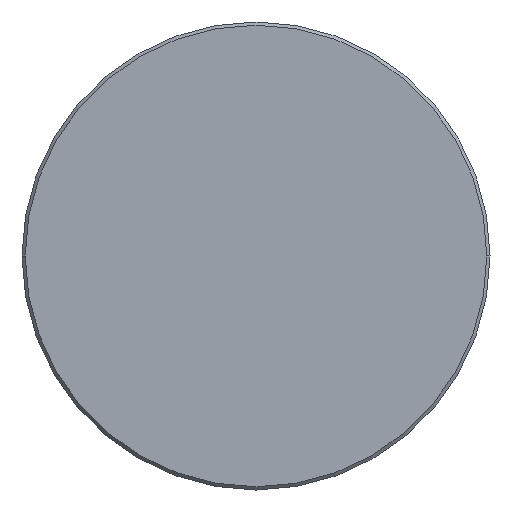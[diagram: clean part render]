
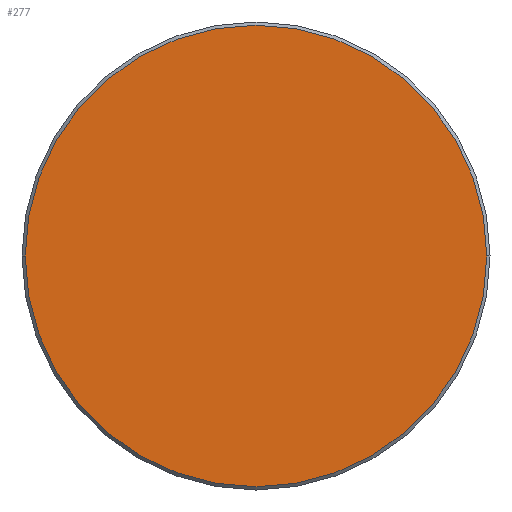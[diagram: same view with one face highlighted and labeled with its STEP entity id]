
A CAD part, left-side view. The second image highlights one B-rep face of the part: STEP entity #277.
In plain terms, the highlighted planar face has unit normal (-1, 0, 0).
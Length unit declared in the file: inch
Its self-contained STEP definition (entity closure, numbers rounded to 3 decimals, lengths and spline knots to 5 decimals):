
#3 = EDGE_LOOP ( 'NONE', ( #10, #75 ) ) ;
#10 = ORIENTED_EDGE ( 'NONE', *, *, #99, .T. ) ;
#53 = EDGE_CURVE ( 'NONE', #90, #296, #250, .T. ) ;
#75 = ORIENTED_EDGE ( 'NONE', *, *, #53, .T. ) ;
#90 = VERTEX_POINT ( 'NONE', #273 ) ;
#98 = PLANE ( 'NONE',  #207 ) ;
#99 = EDGE_CURVE ( 'NONE', #296, #90, #260, .T. ) ;
#123 = DIRECTION ( 'NONE',  ( 0., -1., 0. ) ) ;
#125 = DIRECTION ( 'NONE',  ( 0., -1., 0. ) ) ;
#150 = DIRECTION ( 'NONE',  ( -1., 0., 0. ) ) ;
#204 = DIRECTION ( 'NONE',  ( 0., -1., 0. ) ) ;
#207 = AXIS2_PLACEMENT_3D ( 'NONE', #301, #302, #125 ) ;
#239 = AXIS2_PLACEMENT_3D ( 'NONE', #327, #150, #123 ) ;
#250 = CIRCLE ( 'NONE', #347, 0.28506 ) ;
#260 = CIRCLE ( 'NONE', #239, 0.28506 ) ;
#261 = DIRECTION ( 'NONE',  ( -1., 0., 0. ) ) ;
#273 = CARTESIAN_POINT ( 'NONE',  ( 0., -0.28506, 0. ) ) ;
#274 = FACE_OUTER_BOUND ( 'NONE', #3, .T. ) ;
#275 = CARTESIAN_POINT ( 'NONE',  ( 0., 0.28506, 0. ) ) ;
#277 = ADVANCED_FACE ( 'NONE', ( #274 ), #98, .T. ) ;
#296 = VERTEX_POINT ( 'NONE', #275 ) ;
#301 = CARTESIAN_POINT ( 'NONE',  ( 0., 0., 0. ) ) ;
#302 = DIRECTION ( 'NONE',  ( -1., 0., 0. ) ) ;
#327 = CARTESIAN_POINT ( 'NONE',  ( 0., 0., 0. ) ) ;
#347 = AXIS2_PLACEMENT_3D ( 'NONE', #357, #261, #204 ) ;
#357 = CARTESIAN_POINT ( 'NONE',  ( 0., 0., 0. ) ) ;
